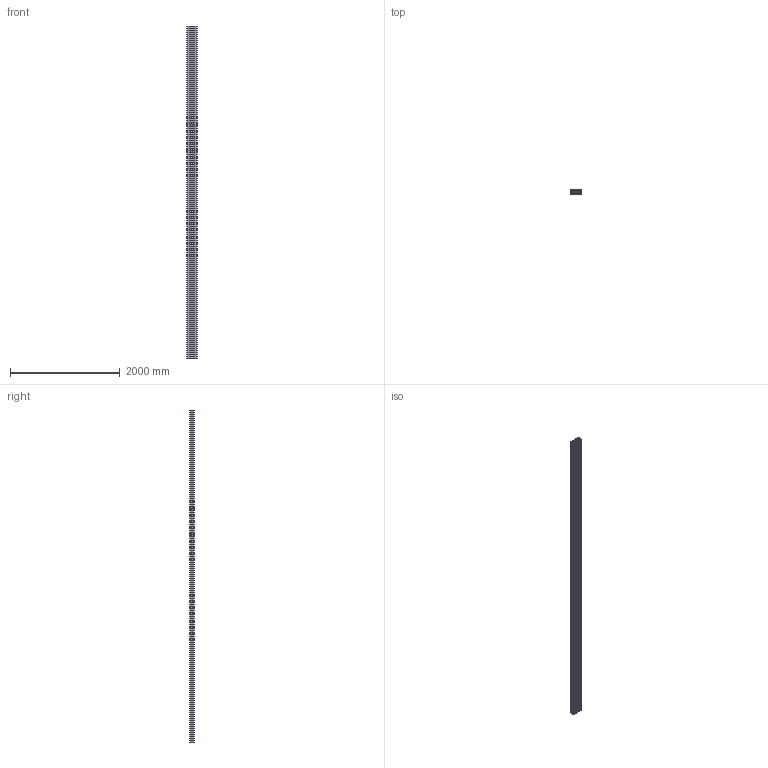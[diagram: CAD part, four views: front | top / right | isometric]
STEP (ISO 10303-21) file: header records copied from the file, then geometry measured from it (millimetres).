
FILE_DESCRIPTION (( 'STEP AP203' ), '1' );
FILE_NAME ('20210600_Profil 8 80x200.step', '2023-06-02T12:04:12', ( '' ), ( '' ), 'SwSTEP 2.0', 'SolidWorks 2021', '' );
FILE_SCHEMA (( 'CONFIG_CONTROL_DESIGN' ));
Length unit declared in the file: millimetre
Products named in the file (1): 20210600_Profil 8 80x200
Bounding box: 200 x 80 x 6060 mm (x, y, z)
Volume: 33905814.9 mm3; surface area: 12398125.3 mm2
Topology: 1 solids, 1 shells, 399 faces, 1191 edges, 794 vertices
Faces by surface type: cylinder 243, plane 156
Entity records: 13740 total; most frequent: DIRECTION 2477, CARTESIAN_POINT 2385, ORIENTED_EDGE 2382, EDGE_CURVE 1191, AXIS2_PLACEMENT_3D 886, VERTEX_POINT 794, LINE 705, VECTOR 705
